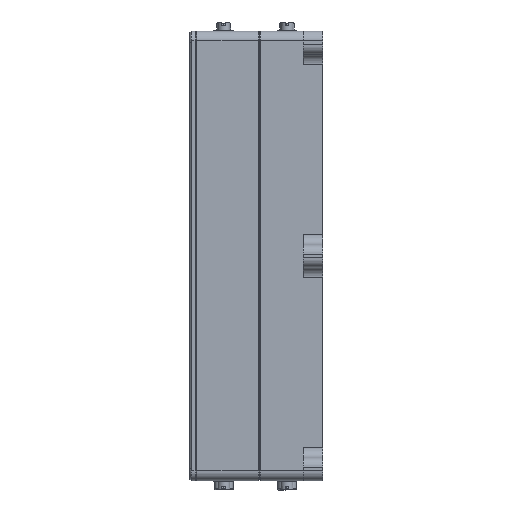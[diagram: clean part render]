
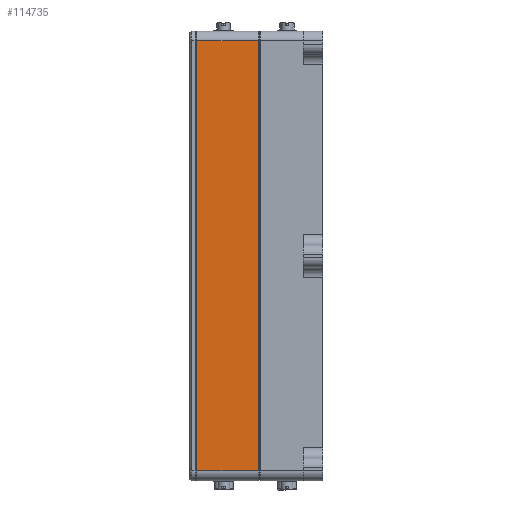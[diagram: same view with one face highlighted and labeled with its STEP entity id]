
A CAD part, left-side view. The second image highlights one B-rep face of the part: STEP entity #114735.
In plain terms, the highlighted planar face has unit normal (-1, 0, 0).
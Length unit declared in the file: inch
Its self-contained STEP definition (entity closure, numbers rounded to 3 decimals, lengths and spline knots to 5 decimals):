
#1602 = DIRECTION ( 'NONE',  ( 1., 0., 0. ) ) ;
#6563 = VERTEX_POINT ( 'NONE', #53483 ) ;
#19691 = VERTEX_POINT ( 'NONE', #147304 ) ;
#22780 = FACE_OUTER_BOUND ( 'NONE', #106230, .T. ) ;
#33437 = DIRECTION ( 'NONE',  ( 0., 0., -1. ) ) ;
#35982 = CARTESIAN_POINT ( 'NONE',  ( -2.325, 0.89, -2.75 ) ) ;
#40065 = LINE ( 'NONE', #139958, #91618 ) ;
#43316 = ORIENTED_EDGE ( 'NONE', *, *, #157673, .F. ) ;
#43796 = VECTOR ( 'NONE', #72404, 39.37008 ) ;
#44223 = CARTESIAN_POINT ( 'NONE',  ( -2.325, 1.61, 2.75 ) ) ;
#47155 = LINE ( 'NONE', #98291, #60097 ) ;
#53483 = CARTESIAN_POINT ( 'NONE',  ( -2.325, 0.82, 2.75 ) ) ;
#55449 = ORIENTED_EDGE ( 'NONE', *, *, #120633, .T. ) ;
#60097 = VECTOR ( 'NONE', #108093, 39.37008 ) ;
#65183 = DIRECTION ( 'NONE',  ( 0., 0., 1. ) ) ;
#72068 = CARTESIAN_POINT ( 'NONE',  ( -2.325, 1.61, -2.75 ) ) ;
#72404 = DIRECTION ( 'NONE',  ( 0., -1., 0. ) ) ;
#91618 = VECTOR ( 'NONE', #65183, 39.37008 ) ;
#95952 = CARTESIAN_POINT ( 'NONE',  ( -2.325, 1.61, 2.875 ) ) ;
#97538 = LINE ( 'NONE', #95952, #144685 ) ;
#97952 = EDGE_CURVE ( 'NONE', #155672, #148010, #97538, .T. ) ;
#98285 = PLANE ( 'NONE',  #108828 ) ;
#98291 = CARTESIAN_POINT ( 'NONE',  ( -2.325, 0.89, 2.75 ) ) ;
#98452 = LINE ( 'NONE', #35982, #43796 ) ;
#106230 = EDGE_LOOP ( 'NONE', ( #43316, #132749, #55449, #140328 ) ) ;
#108093 = DIRECTION ( 'NONE',  ( 0., -1., 0. ) ) ;
#108828 = AXIS2_PLACEMENT_3D ( 'NONE', #149392, #1602, #113684 ) ;
#113684 = DIRECTION ( 'NONE',  ( 0., 0., 1. ) ) ;
#114735 = ADVANCED_FACE ( 'NONE', ( #22780 ), #98285, .F. ) ;
#120633 = EDGE_CURVE ( 'NONE', #148010, #19691, #98452, .T. ) ;
#132749 = ORIENTED_EDGE ( 'NONE', *, *, #97952, .T. ) ;
#139958 = CARTESIAN_POINT ( 'NONE',  ( -2.325, 0.82, 2.75 ) ) ;
#140328 = ORIENTED_EDGE ( 'NONE', *, *, #158727, .T. ) ;
#144685 = VECTOR ( 'NONE', #33437, 39.37008 ) ;
#147304 = CARTESIAN_POINT ( 'NONE',  ( -2.325, 0.82, -2.75 ) ) ;
#148010 = VERTEX_POINT ( 'NONE', #72068 ) ;
#149392 = CARTESIAN_POINT ( 'NONE',  ( -2.325, 0.89, 2.875 ) ) ;
#155672 = VERTEX_POINT ( 'NONE', #44223 ) ;
#157673 = EDGE_CURVE ( 'NONE', #155672, #6563, #47155, .T. ) ;
#158727 = EDGE_CURVE ( 'NONE', #19691, #6563, #40065, .T. ) ;
